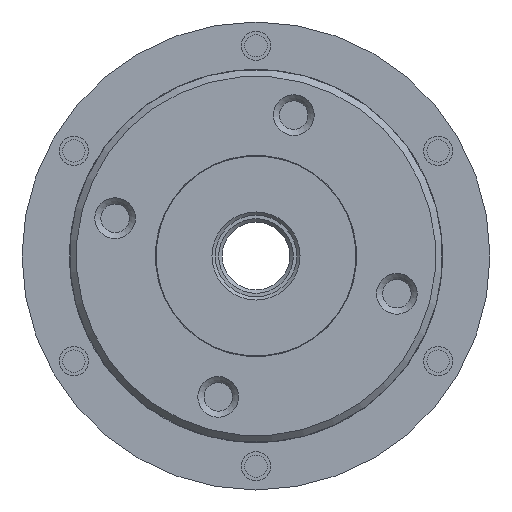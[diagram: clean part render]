
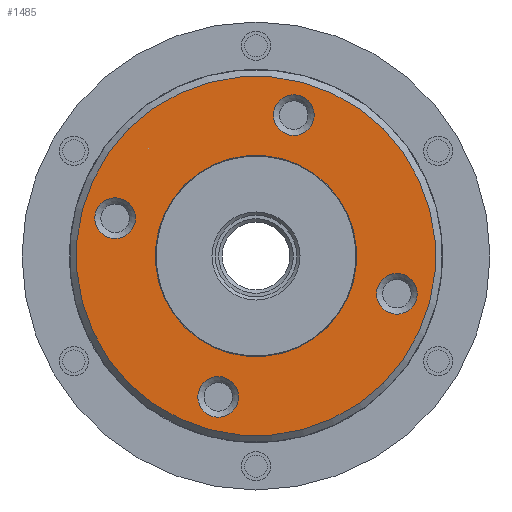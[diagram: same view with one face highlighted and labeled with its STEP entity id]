
A CAD part, left-side view. The second image highlights one B-rep face of the part: STEP entity #1485.
In plain terms, the highlighted planar face has unit normal (-1, 0, 0).
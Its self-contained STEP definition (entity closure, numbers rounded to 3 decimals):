
#1485 = ADVANCED_FACE( '', ( #3622, #3623, #3624, #3625, #3626, #3627 ), #3628, .T. );
#3622 = FACE_OUTER_BOUND( '', #6504, .T. );
#3623 = FACE_BOUND( '', #6505, .T. );
#3624 = FACE_BOUND( '', #6506, .T. );
#3625 = FACE_BOUND( '', #6507, .T. );
#3626 = FACE_BOUND( '', #6508, .T. );
#3627 = FACE_BOUND( '', #6509, .T. );
#3628 = PLANE( '', #6510 );
#6504 = EDGE_LOOP( '', ( #11299 ) );
#6505 = EDGE_LOOP( '', ( #11300 ) );
#6506 = EDGE_LOOP( '', ( #11301 ) );
#6507 = EDGE_LOOP( '', ( #11302 ) );
#6508 = EDGE_LOOP( '', ( #11303 ) );
#6509 = EDGE_LOOP( '', ( #11304 ) );
#6510 = AXIS2_PLACEMENT_3D( '', #11305, #11306, #11307 );
#11299 = ORIENTED_EDGE( '', *, *, #16701, .T. );
#11300 = ORIENTED_EDGE( '', *, *, #17160, .T. );
#11301 = ORIENTED_EDGE( '', *, *, #17161, .T. );
#11302 = ORIENTED_EDGE( '', *, *, #16810, .T. );
#11303 = ORIENTED_EDGE( '', *, *, #15920, .T. );
#11304 = ORIENTED_EDGE( '', *, *, #17162, .F. );
#11305 = CARTESIAN_POINT( '', ( -58.5, -14.344, -3.843 ) );
#11306 = DIRECTION( '', ( -1., 0., 0. ) );
#11307 = DIRECTION( '', ( 0., 0., 1. ) );
#15920 = EDGE_CURVE( '', #18881, #18881, #18882, .T. );
#16701 = EDGE_CURVE( '', #20190, #20190, #20191, .T. );
#16810 = EDGE_CURVE( '', #20360, #20360, #20361, .T. );
#17160 = EDGE_CURVE( '', #20889, #20889, #20890, .T. );
#17161 = EDGE_CURVE( '', #20891, #20891, #20892, .T. );
#17162 = EDGE_CURVE( '', #20893, #20893, #20894, .T. );
#18881 = VERTEX_POINT( '', #23451 );
#18882 = CIRCLE( '', #23452, 3. );
#20190 = VERTEX_POINT( '', #25967 );
#20191 = CIRCLE( '', #25968, 26.5 );
#20360 = VERTEX_POINT( '', #26240 );
#20361 = CIRCLE( '', #26241, 3. );
#20889 = VERTEX_POINT( '', #27303 );
#20890 = CIRCLE( '', #27304, 3. );
#20891 = VERTEX_POINT( '', #27305 );
#20892 = CIRCLE( '', #27306, 3. );
#20893 = VERTEX_POINT( '', #27307 );
#20894 = CIRCLE( '', #27308, 14.85 );
#23451 = CARTESIAN_POINT( '', ( -58.5, 8.462, -19.991 ) );
#23452 = AXIS2_PLACEMENT_3D( '', #30329, #30330, #30331 );
#25967 = CARTESIAN_POINT( '', ( -58.5, -25.597, -6.859 ) );
#25968 = AXIS2_PLACEMENT_3D( '', #31389, #31390, #31391 );
#26240 = CARTESIAN_POINT( '', ( -58.5, 23.665, 6.341 ) );
#26241 = AXIS2_PLACEMENT_3D( '', #31541, #31542, #31543 );
#27303 = CARTESIAN_POINT( '', ( -58.5, -17.87, -4.788 ) );
#27304 = AXIS2_PLACEMENT_3D( '', #31908, #31909, #31910 );
#27305 = CARTESIAN_POINT( '', ( -58.5, -2.667, 21.544 ) );
#27306 = AXIS2_PLACEMENT_3D( '', #31911, #31912, #31913 );
#27307 = CARTESIAN_POINT( '', ( -58.5, -14.344, -3.843 ) );
#27308 = AXIS2_PLACEMENT_3D( '', #31914, #31915, #31916 );
#30329 = CARTESIAN_POINT( '', ( -58.5, 5.565, -20.767 ) );
#30330 = DIRECTION( '', ( 1., 0., 0. ) );
#30331 = DIRECTION( '', ( 0., 0.966, 0.259 ) );
#31389 = CARTESIAN_POINT( '', ( -58.5, 0., 0. ) );
#31390 = DIRECTION( '', ( -1., 0., 0. ) );
#31391 = DIRECTION( '', ( 0., -0.966, -0.259 ) );
#31541 = CARTESIAN_POINT( '', ( -58.5, 20.767, 5.565 ) );
#31542 = DIRECTION( '', ( 1., 0., 0. ) );
#31543 = DIRECTION( '', ( 0., 0.966, 0.259 ) );
#31908 = CARTESIAN_POINT( '', ( -58.5, -20.767, -5.565 ) );
#31909 = DIRECTION( '', ( 1., 0., 0. ) );
#31910 = DIRECTION( '', ( 0., 0.966, 0.259 ) );
#31911 = CARTESIAN_POINT( '', ( -58.5, -5.565, 20.767 ) );
#31912 = DIRECTION( '', ( 1., 0., 0. ) );
#31913 = DIRECTION( '', ( 0., 0.966, 0.259 ) );
#31914 = CARTESIAN_POINT( '', ( -58.5, 0., 0. ) );
#31915 = DIRECTION( '', ( -1., 0., 0. ) );
#31916 = DIRECTION( '', ( 0., -0.966, -0.259 ) );
